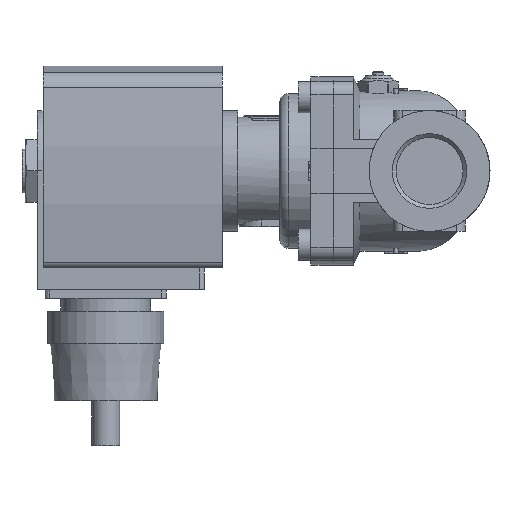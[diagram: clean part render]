
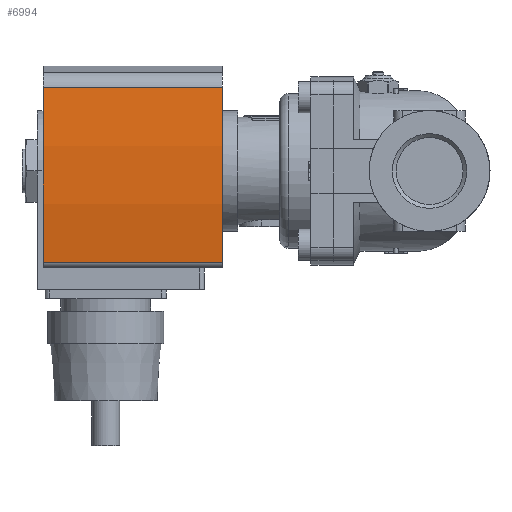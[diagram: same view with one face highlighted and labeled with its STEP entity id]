
A CAD part, left-side view. The second image highlights one B-rep face of the part: STEP entity #6994.
In plain terms, the highlighted cylindrical face has radius 130 mm (diameter 260 mm), a partial arc.
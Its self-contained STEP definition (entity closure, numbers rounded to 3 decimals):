
#295=CYLINDRICAL_SURFACE('',#7618,130.);
#765=LINE('',#11419,#1255);
#766=LINE('',#11423,#1256);
#1255=VECTOR('',#9278,1000.);
#1256=VECTOR('',#9283,1000.);
#2857=ORIENTED_EDGE('',*,*,#3844,.T.);
#2858=ORIENTED_EDGE('',*,*,#3845,.F.);
#2859=ORIENTED_EDGE('',*,*,#3833,.F.);
#2860=ORIENTED_EDGE('',*,*,#3843,.T.);
#3833=EDGE_CURVE('',#4452,#4453,#4716,.T.);
#3843=EDGE_CURVE('',#4452,#4459,#765,.T.);
#3844=EDGE_CURVE('',#4459,#4460,#4724,.T.);
#3845=EDGE_CURVE('',#4453,#4460,#766,.T.);
#4452=VERTEX_POINT('',#11399);
#4453=VERTEX_POINT('',#11401);
#4459=VERTEX_POINT('',#11418);
#4460=VERTEX_POINT('',#11422);
#4716=CIRCLE('',#7608,130.);
#4724=CIRCLE('',#7619,130.);
#5089=EDGE_LOOP('',(#2857,#2858,#2859,#2860));
#5480=FACE_BOUND('',#5089,.T.);
#6994=ADVANCED_FACE('',(#5480),#295,.T.);
#7608=AXIS2_PLACEMENT_3D('',#11400,#9256,#9257);
#7618=AXIS2_PLACEMENT_3D('',#11420,#9279,#9280);
#7619=AXIS2_PLACEMENT_3D('',#11421,#9281,#9282);
#9256=DIRECTION('',(0.,1.,0.));
#9257=DIRECTION('',(1.,0.,0.));
#9278=DIRECTION('',(0.,-1.,0.));
#9279=DIRECTION('',(0.,-1.,0.));
#9280=DIRECTION('',(0.,0.,-1.));
#9281=DIRECTION('',(0.,1.,0.));
#9282=DIRECTION('',(1.,0.,0.));
#9283=DIRECTION('',(0.,-1.,0.));
#11399=CARTESIAN_POINT('',(-20.382,14.,18.392));
#11400=CARTESIAN_POINT('',(0.,14.,-110.));
#11401=CARTESIAN_POINT('',(18.639,14.,18.657));
#11418=CARTESIAN_POINT('',(-20.382,-26.,18.392));
#11419=CARTESIAN_POINT('',(-20.382,14.,18.392));
#11420=CARTESIAN_POINT('',(0.,14.,-110.));
#11421=CARTESIAN_POINT('',(0.,-26.,-110.));
#11422=CARTESIAN_POINT('',(18.639,-26.,18.657));
#11423=CARTESIAN_POINT('',(18.639,14.,18.657));
